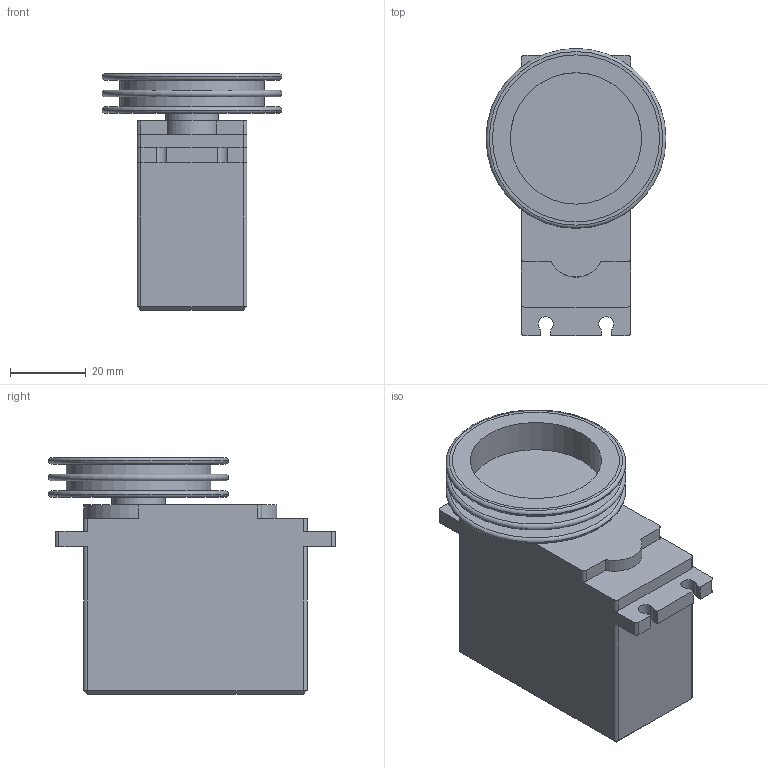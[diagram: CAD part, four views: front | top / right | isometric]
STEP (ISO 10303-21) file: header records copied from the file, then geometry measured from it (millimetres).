
FILE_DESCRIPTION(/* description */ ('Alibre Inc.'),/* implementation_level */ '2;1');
FILE_NAME(/* name */ 'export0',/* time_stamp */ '2013-08-09T10:12:04-06:00',/* author */ (''),/* organization */ (''),/* preprocessor_version */ 'ST-DEVELOPER v14',/* originating_system */ 'Alibre',/* authorisation */ '');
FILE_SCHEMA (('ALIBRE_SCHEMA','CONFIG_CONTROL_DESIGN'));
Length unit declared in the file: centimetre
Products named in the file (1): ID_1
Bounding box: 47.5 x 75.75 x 62.5 mm (x, y, z)
Volume: 47921.2 mm3; surface area: 31240.5 mm2
Topology: 1 solids, 2 shells, 114 faces, 291 edges, 185 vertices
Faces by surface type: plane 71, cylinder 34, torus 5, cone 4
Full cylindrical faces by diameter (mm): 10.6 x1, 14 x1, 34.679 x1, 38.079 x2, 44.1 x1, 47.5 x2
Entity records: 6461 total; most frequent: CARTESIAN_POINT 927, DIRECTION 635, ORIENTED_EDGE 542, CONSTRAINTPAIRUV 391, VECTOR 333, REFERENCEDEPENDENTUV 293, PERSISTANTTOPOLOGYATTRIBUTE 276, LINE 274
